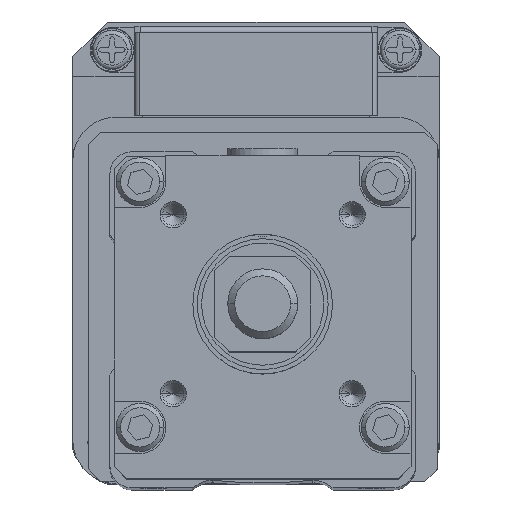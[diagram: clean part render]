
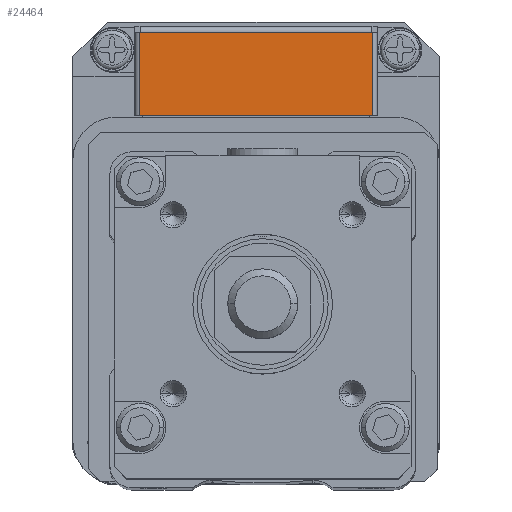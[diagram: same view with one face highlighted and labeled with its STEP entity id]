
A CAD part, top view. The second image highlights one B-rep face of the part: STEP entity #24464.
In plain terms, the highlighted planar face has unit normal (0, 0, 1).
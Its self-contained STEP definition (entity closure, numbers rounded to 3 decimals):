
#1524 = CARTESIAN_POINT ( 'NONE',  ( -13.3, 26.05, -35.8 ) ) ;
#2256 = CARTESIAN_POINT ( 'NONE',  ( 13.29, 30.8, -35.8 ) ) ;
#2616 = CARTESIAN_POINT ( 'NONE',  ( 13.3, 26.05, -35.8 ) ) ;
#3264 = LINE ( 'NONE', #1524, #21778 ) ;
#3470 = LINE ( 'NONE', #6122, #39470 ) ;
#3476 = VERTEX_POINT ( 'NONE', #28781 ) ;
#3662 = CARTESIAN_POINT ( 'NONE',  ( -13.29, 30.81, -35.8 ) ) ;
#3813 = VECTOR ( 'NONE', #39088, 1000. ) ;
#3980 = DIRECTION ( 'NONE',  ( 0., 1., 0. ) ) ;
#4381 = LINE ( 'NONE', #6181, #21795 ) ;
#5233 = CARTESIAN_POINT ( 'NONE',  ( -13.3, 30.8, -35.8 ) ) ;
#5891 = VERTEX_POINT ( 'NONE', #5233 ) ;
#6119 = VECTOR ( 'NONE', #13338, 1000. ) ;
#6122 = CARTESIAN_POINT ( 'NONE',  ( 0., 21.3, -35.8 ) ) ;
#6181 = CARTESIAN_POINT ( 'NONE',  ( -13.595, 30.8, -35.8 ) ) ;
#6701 = VECTOR ( 'NONE', #27013, 1000. ) ;
#7066 = VERTEX_POINT ( 'NONE', #3662 ) ;
#7513 = LINE ( 'NONE', #10989, #24916 ) ;
#8518 = DIRECTION ( 'NONE',  ( 0., -1., 0. ) ) ;
#8935 = ORIENTED_EDGE ( 'NONE', *, *, #30287, .F. ) ;
#8991 = CARTESIAN_POINT ( 'NONE',  ( 13.3, 21.3, -35.8 ) ) ;
#9798 = DIRECTION ( 'NONE',  ( 0., 0., -1. ) ) ;
#10452 = EDGE_CURVE ( 'NONE', #20309, #3476, #3470, .T. ) ;
#10856 = LINE ( 'NONE', #44474, #20056 ) ;
#10989 = CARTESIAN_POINT ( 'NONE',  ( -13.29, 26.055, -35.8 ) ) ;
#11556 = ORIENTED_EDGE ( 'NONE', *, *, #41655, .T. ) ;
#11956 = LINE ( 'NONE', #14662, #3813 ) ;
#11965 = EDGE_CURVE ( 'NONE', #17738, #19865, #11956, .T. ) ;
#12514 = CARTESIAN_POINT ( 'NONE',  ( -13.29, 30.8, -35.8 ) ) ;
#13126 = PLANE ( 'NONE',  #38007 ) ;
#13338 = DIRECTION ( 'NONE',  ( 1., 0., 0. ) ) ;
#14662 = CARTESIAN_POINT ( 'NONE',  ( 13.29, 31.105, -35.8 ) ) ;
#15645 = FACE_OUTER_BOUND ( 'NONE', #30295, .T. ) ;
#15851 = EDGE_CURVE ( 'NONE', #5891, #39854, #4381, .T. ) ;
#16303 = ORIENTED_EDGE ( 'NONE', *, *, #18469, .T. ) ;
#17609 = ORIENTED_EDGE ( 'NONE', *, *, #29145, .F. ) ;
#17738 = VERTEX_POINT ( 'NONE', #2256 ) ;
#18469 = EDGE_CURVE ( 'NONE', #19865, #7066, #10856, .T. ) ;
#19865 = VERTEX_POINT ( 'NONE', #37793 ) ;
#20056 = VECTOR ( 'NONE', #26951, 1000. ) ;
#20116 = DIRECTION ( 'NONE',  ( 1., 0., 0. ) ) ;
#20309 = VERTEX_POINT ( 'NONE', #8991 ) ;
#21778 = VECTOR ( 'NONE', #8518, 1000. ) ;
#21795 = VECTOR ( 'NONE', #20116, 1000. ) ;
#22677 = DIRECTION ( 'NONE',  ( -1., 0., 0. ) ) ;
#23194 = ORIENTED_EDGE ( 'NONE', *, *, #15851, .F. ) ;
#23265 = VERTEX_POINT ( 'NONE', #44778 ) ;
#24464 = ADVANCED_FACE ( 'NONE', ( #15645 ), #13126, .F. ) ;
#24617 = LINE ( 'NONE', #27257, #6119 ) ;
#24916 = VECTOR ( 'NONE', #3980, 1000. ) ;
#26951 = DIRECTION ( 'NONE',  ( -1., 0., 0. ) ) ;
#27013 = DIRECTION ( 'NONE',  ( 0., 1., 0. ) ) ;
#27257 = CARTESIAN_POINT ( 'NONE',  ( 13.595, 30.8, -35.8 ) ) ;
#28781 = CARTESIAN_POINT ( 'NONE',  ( -13.3, 21.3, -35.8 ) ) ;
#28986 = ORIENTED_EDGE ( 'NONE', *, *, #32280, .T. ) ;
#29145 = EDGE_CURVE ( 'NONE', #17738, #23265, #24617, .T. ) ;
#30287 = EDGE_CURVE ( 'NONE', #39854, #7066, #7513, .T. ) ;
#30295 = EDGE_LOOP ( 'NONE', ( #16303, #8935, #23194, #28986, #36399, #11556, #17609, #30529 ) ) ;
#30529 = ORIENTED_EDGE ( 'NONE', *, *, #11965, .T. ) ;
#30686 = CARTESIAN_POINT ( 'NONE',  ( -13.3, 21.3, -35.8 ) ) ;
#32280 = EDGE_CURVE ( 'NONE', #5891, #3476, #3264, .T. ) ;
#33446 = LINE ( 'NONE', #2616, #6701 ) ;
#34208 = DIRECTION ( 'NONE',  ( 0., 1., 0. ) ) ;
#36399 = ORIENTED_EDGE ( 'NONE', *, *, #10452, .F. ) ;
#37793 = CARTESIAN_POINT ( 'NONE',  ( 13.29, 30.81, -35.8 ) ) ;
#38007 = AXIS2_PLACEMENT_3D ( 'NONE', #30686, #9798, #34208 ) ;
#39088 = DIRECTION ( 'NONE',  ( 0., 1., 0. ) ) ;
#39470 = VECTOR ( 'NONE', #22677, 1000. ) ;
#39854 = VERTEX_POINT ( 'NONE', #12514 ) ;
#41655 = EDGE_CURVE ( 'NONE', #20309, #23265, #33446, .T. ) ;
#44474 = CARTESIAN_POINT ( 'NONE',  ( 0., 30.81, -35.8 ) ) ;
#44778 = CARTESIAN_POINT ( 'NONE',  ( 13.3, 30.8, -35.8 ) ) ;
